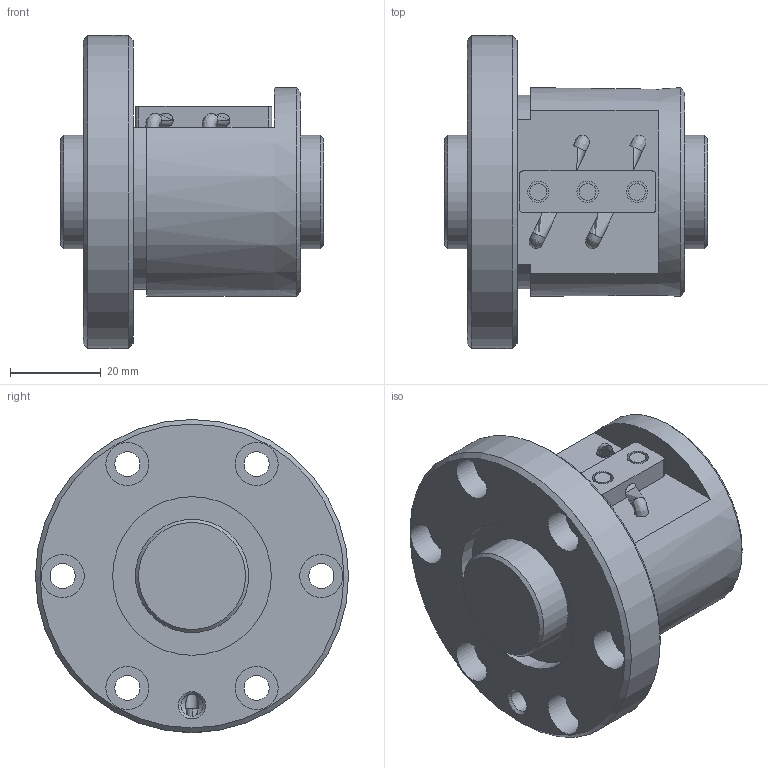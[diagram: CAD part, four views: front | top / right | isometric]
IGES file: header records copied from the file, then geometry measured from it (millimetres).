
Start section: Data from Parasolid IGES Translator 26.0.171, Copyright(c) 2006 Siemens PLM Software. All Rights Reserved.
Global section: file name: BNF2504V-5RRG1+58LC0_000_rev.igs; native system: By Siemens PLM Incorporated; preprocessor: XPlus GENERIC/IGES 26.0.171; author: Noname; organization: Noname; date: 20240806.072901; units: millimetre
Bounding box: 58 x 69 x 69 mm (x, y, z)
Surface area: 26178.5 mm2 (no closed solid volume)
Topology: 0 solids, 0 shells, 80 faces, 352 edges, 306 vertices
Faces by surface type: revolution 51, extrusion 29
